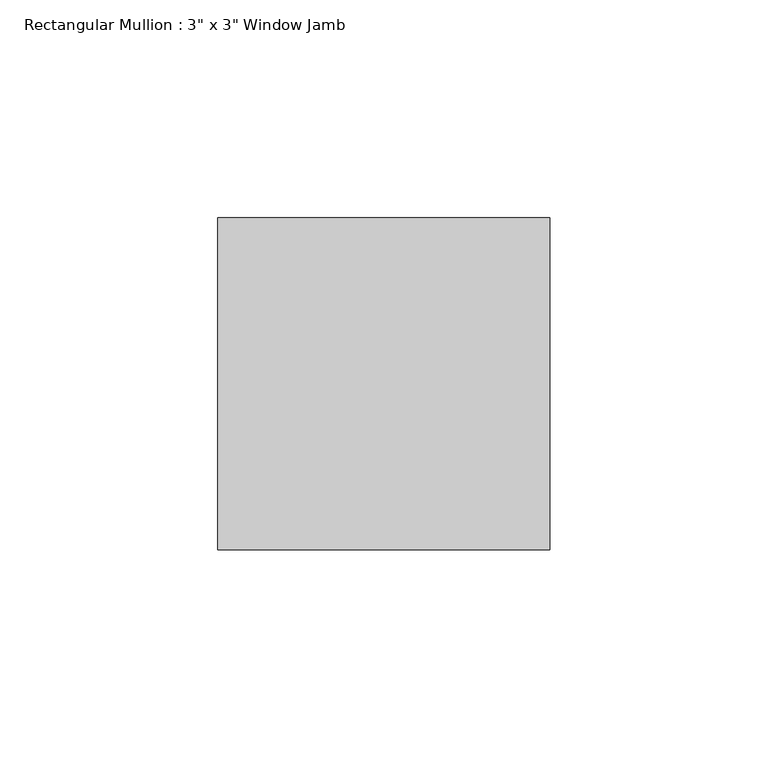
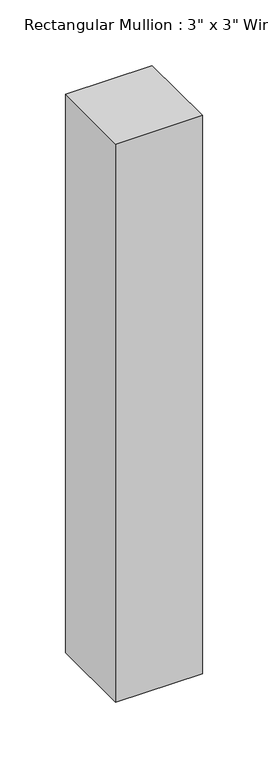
"""IFC4 building model written with IfcOpenShell, lengths in millimetres: member geometry."""

from ifc_helpers import new_model, si_unit, frame, origin, place, context, project, spatial, polyline, outline, extrude, source, transform, mapped, element, save


def member_c1b5942e(model_context):
    return source(origin(), model_context, "Body", "SweptSolid", [
        extrude(outline(polyline([(0.0, 50.8), (0.0, -25.4), (-76.2, -25.4), (-76.2, 50.8), (0.0, 50.8)])), frame((0.0, 0.0, -518.16), z_axis=(0.0, 0.0, 1.0), x_axis=(1.0, 0.0, 0.0)), (0.0, 0.0, 1.0), 518.16),
    ])


if __name__ == "__main__":
    model = new_model("IFC4")
    model_context = context("Model", 3, world=origin())
    ifc_project = project(units=[si_unit("LENGTHUNIT", "METRE", prefix="MILLI")], contexts=[model_context])
    site = spatial("IfcSite", under=ifc_project)
    building = spatial("IfcBuilding", under=site)
    placement = place(None, origin())
    member_shape = member_c1b5942e(model_context)
    element("IfcMember", 1, ObjectType="Rectangular Mullion : 3\" x 3\" Window Jamb", at=placement, inside=building, context=model_context, shape_type="MappedRepresentation", body=[
        mapped(member_shape, transform((0.0, 0.0, 0.0), x_axis=(1.0, 0.0, 0.0), y_axis=(0.0, 1.0, 0.0), z_axis=(0.0, 0.0, 1.0))),
    ])
    save(model, "model.ifc")
